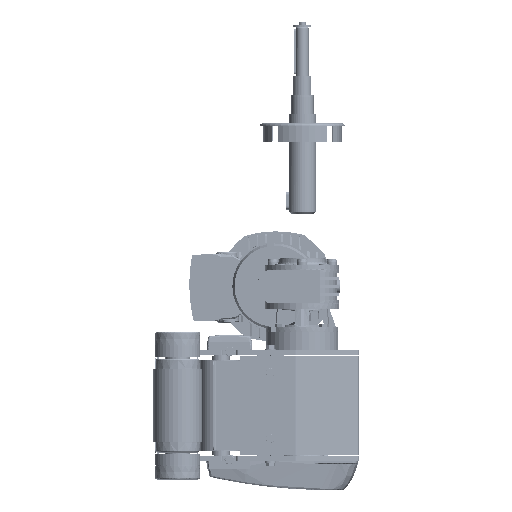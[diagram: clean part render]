
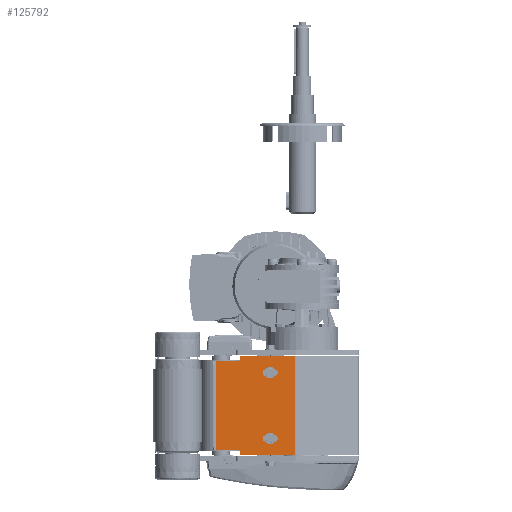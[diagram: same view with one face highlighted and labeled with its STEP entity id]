
A CAD part, left-side view. The second image highlights one B-rep face of the part: STEP entity #125792.
In plain terms, the highlighted planar face has unit normal (-1, 0, 0).
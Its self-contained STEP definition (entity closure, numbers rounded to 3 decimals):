
#920 = CARTESIAN_POINT ( 'NONE',  ( -90., 160., -6.5 ) ) ;
#2067 = FACE_BOUND ( 'NONE', #109471, .T. ) ;
#3760 = ORIENTED_EDGE ( 'NONE', *, *, #62869, .T. ) ;
#9367 = DIRECTION ( 'NONE',  ( 0., 0., -1. ) ) ;
#9980 = DIRECTION ( 'NONE',  ( 0., -1., 0. ) ) ;
#15457 = DIRECTION ( 'NONE',  ( 0., -1., 0. ) ) ;
#16075 = ORIENTED_EDGE ( 'NONE', *, *, #184714, .T. ) ;
#16691 = VERTEX_POINT ( 'NONE', #176641 ) ;
#16764 = VERTEX_POINT ( 'NONE', #186743 ) ;
#18077 = DIRECTION ( 'NONE',  ( 0., 1., 0. ) ) ;
#18501 = VERTEX_POINT ( 'NONE', #71758 ) ;
#19301 = ORIENTED_EDGE ( 'NONE', *, *, #92833, .T. ) ;
#20409 = CARTESIAN_POINT ( 'NONE',  ( -90., 160., -28. ) ) ;
#21669 = LINE ( 'NONE', #215930, #70509 ) ;
#22402 = CARTESIAN_POINT ( 'NONE',  ( -90., 93., -101. ) ) ;
#23119 = CARTESIAN_POINT ( 'NONE',  ( -90., 103., -24.5 ) ) ;
#23174 = EDGE_CURVE ( 'NONE', #45340, #18501, #226067, .T. ) ;
#23413 = AXIS2_PLACEMENT_3D ( 'NONE', #920, #72430, #106345 ) ;
#28260 = CARTESIAN_POINT ( 'NONE',  ( -90., 70.086, -115.5 ) ) ;
#30289 = VECTOR ( 'NONE', #18077, 1000. ) ;
#32007 = VERTEX_POINT ( 'NONE', #165920 ) ;
#34361 = LINE ( 'NONE', #192344, #146339 ) ;
#37370 = LINE ( 'NONE', #145030, #222529 ) ;
#38778 = CARTESIAN_POINT ( 'NONE',  ( -90., 160., -101. ) ) ;
#38808 = DIRECTION ( 'NONE',  ( 1., 0., 0. ) ) ;
#39781 = EDGE_CURVE ( 'NONE', #179240, #89728, #21669, .T. ) ;
#40421 = CARTESIAN_POINT ( 'NONE',  ( -90., 160., -6.5 ) ) ;
#44104 = DIRECTION ( 'NONE',  ( 0., 0., -1. ) ) ;
#45212 = CARTESIAN_POINT ( 'NONE',  ( -90., 131.5, -110.5 ) ) ;
#45340 = VERTEX_POINT ( 'NONE', #131006 ) ;
#45546 = DIRECTION ( 'NONE',  ( 1., 0., 0. ) ) ;
#47523 = CIRCLE ( 'NONE', #55965, 3.5 ) ;
#48591 = CARTESIAN_POINT ( 'NONE',  ( -90., 93., -24.5 ) ) ;
#49740 = DIRECTION ( 'NONE',  ( 1., 0., 0. ) ) ;
#50282 = DIRECTION ( 'NONE',  ( 0., -1., 0. ) ) ;
#50458 = VECTOR ( 'NONE', #15457, 1000. ) ;
#51468 = ORIENTED_EDGE ( 'NONE', *, *, #227158, .T. ) ;
#53542 = EDGE_CURVE ( 'NONE', #96607, #139746, #141470, .T. ) ;
#53718 = EDGE_CURVE ( 'NONE', #180722, #60126, #47523, .T. ) ;
#55965 = AXIS2_PLACEMENT_3D ( 'NONE', #23119, #94520, #44104 ) ;
#56366 = ORIENTED_EDGE ( 'NONE', *, *, #23174, .T. ) ;
#57952 = DIRECTION ( 'NONE',  ( 0., 0., -1. ) ) ;
#60126 = VERTEX_POINT ( 'NONE', #80586 ) ;
#60308 = DIRECTION ( 'NONE',  ( 0., -1., 0. ) ) ;
#62869 = EDGE_CURVE ( 'NONE', #60126, #225977, #193018, .T. ) ;
#67556 = VECTOR ( 'NONE', #60308, 1000. ) ;
#70509 = VECTOR ( 'NONE', #57952, 1000. ) ;
#71575 = LINE ( 'NONE', #142913, #74042 ) ;
#71758 = CARTESIAN_POINT ( 'NONE',  ( -90., 103., -94. ) ) ;
#72430 = DIRECTION ( 'NONE',  ( 1., 0., 0. ) ) ;
#74042 = VECTOR ( 'NONE', #148660, 1000. ) ;
#74261 = EDGE_CURVE ( 'NONE', #225977, #16764, #77391, .T. ) ;
#77391 = CIRCLE ( 'NONE', #215695, 3.5 ) ;
#78059 = EDGE_CURVE ( 'NONE', #200200, #89728, #71575, .T. ) ;
#80296 = CARTESIAN_POINT ( 'NONE',  ( -90., 160., -94. ) ) ;
#80586 = CARTESIAN_POINT ( 'NONE',  ( -90., 103., -21. ) ) ;
#82677 = EDGE_LOOP ( 'NONE', ( #156434, #192096, #16075, #159628, #51468, #139867, #133179, #100632 ) ) ;
#85364 = ORIENTED_EDGE ( 'NONE', *, *, #53542, .T. ) ;
#89447 = CARTESIAN_POINT ( 'NONE',  ( -90., 103., -28. ) ) ;
#89728 = VERTEX_POINT ( 'NONE', #28260 ) ;
#91158 = EDGE_CURVE ( 'NONE', #32007, #187760, #159036, .T. ) ;
#91488 = LINE ( 'NONE', #38778, #212761 ) ;
#92833 = EDGE_CURVE ( 'NONE', #18501, #96607, #95575, .T. ) ;
#93883 = ORIENTED_EDGE ( 'NONE', *, *, #74261, .T. ) ;
#94520 = DIRECTION ( 'NONE',  ( 1., 0., 0. ) ) ;
#95575 = LINE ( 'NONE', #80296, #112636 ) ;
#96607 = VERTEX_POINT ( 'NONE', #152482 ) ;
#100632 = ORIENTED_EDGE ( 'NONE', *, *, #204111, .F. ) ;
#106345 = DIRECTION ( 'NONE',  ( 0., 0., -1. ) ) ;
#109471 = EDGE_LOOP ( 'NONE', ( #19301, #85364, #173222, #56366 ) ) ;
#110025 = CARTESIAN_POINT ( 'NONE',  ( -90., 131.5, -6.5 ) ) ;
#110176 = DIRECTION ( 'NONE',  ( 0., 0., -1. ) ) ;
#110860 = VERTEX_POINT ( 'NONE', #45212 ) ;
#112636 = VECTOR ( 'NONE', #9980, 1000. ) ;
#118822 = DIRECTION ( 'NONE',  ( 0., 0., -1. ) ) ;
#119165 = CARTESIAN_POINT ( 'NONE',  ( -90., 158.5, -11.5 ) ) ;
#123896 = FACE_OUTER_BOUND ( 'NONE', #82677, .T. ) ;
#123990 = CARTESIAN_POINT ( 'NONE',  ( -90., 160., -21. ) ) ;
#124791 = EDGE_CURVE ( 'NONE', #149090, #32007, #34361, .T. ) ;
#125792 = ADVANCED_FACE ( 'NONE', ( #2067, #215145, #123896 ), #161296, .F. ) ;
#128885 = AXIS2_PLACEMENT_3D ( 'NONE', #199117, #38808, #110176 ) ;
#131006 = CARTESIAN_POINT ( 'NONE',  ( -90., 103., -101. ) ) ;
#133179 = ORIENTED_EDGE ( 'NONE', *, *, #39781, .F. ) ;
#138922 = CARTESIAN_POINT ( 'NONE',  ( -90., 131.5, -115.5 ) ) ;
#139746 = VERTEX_POINT ( 'NONE', #22402 ) ;
#139867 = ORIENTED_EDGE ( 'NONE', *, *, #78059, .T. ) ;
#141470 = CIRCLE ( 'NONE', #197804, 3.5 ) ;
#142913 = CARTESIAN_POINT ( 'NONE',  ( -90., 160., -115.5 ) ) ;
#143006 = CARTESIAN_POINT ( 'NONE',  ( -90., 160., -110.5 ) ) ;
#145030 = CARTESIAN_POINT ( 'NONE',  ( -90., 158.5, -6.5 ) ) ;
#146339 = VECTOR ( 'NONE', #227427, 1000. ) ;
#148660 = DIRECTION ( 'NONE',  ( 0., -1., 0. ) ) ;
#149090 = VERTEX_POINT ( 'NONE', #110025 ) ;
#152482 = CARTESIAN_POINT ( 'NONE',  ( -90., 93., -94. ) ) ;
#153166 = CARTESIAN_POINT ( 'NONE',  ( -90., 93., -97.5 ) ) ;
#156434 = ORIENTED_EDGE ( 'NONE', *, *, #124791, .T. ) ;
#159036 = LINE ( 'NONE', #228070, #160898 ) ;
#159628 = ORIENTED_EDGE ( 'NONE', *, *, #184193, .T. ) ;
#159859 = CARTESIAN_POINT ( 'NONE',  ( -90., 70.086, -6.5 ) ) ;
#160243 = DIRECTION ( 'NONE',  ( 0., 0., -1. ) ) ;
#160898 = VECTOR ( 'NONE', #230408, 1000. ) ;
#161296 = PLANE ( 'NONE',  #23413 ) ;
#165920 = CARTESIAN_POINT ( 'NONE',  ( -90., 131.5, -11.5 ) ) ;
#167447 = EDGE_CURVE ( 'NONE', #139746, #45340, #91488, .T. ) ;
#170735 = DIRECTION ( 'NONE',  ( 0., 0., -1. ) ) ;
#172008 = LINE ( 'NONE', #186121, #173580 ) ;
#173222 = ORIENTED_EDGE ( 'NONE', *, *, #167447, .T. ) ;
#173580 = VECTOR ( 'NONE', #9367, 1000. ) ;
#176230 = EDGE_CURVE ( 'NONE', #16764, #180722, #180712, .T. ) ;
#176641 = CARTESIAN_POINT ( 'NONE',  ( -90., 158.5, -110.5 ) ) ;
#179240 = VERTEX_POINT ( 'NONE', #159859 ) ;
#180712 = LINE ( 'NONE', #20409, #30289 ) ;
#180722 = VERTEX_POINT ( 'NONE', #89447 ) ;
#184193 = EDGE_CURVE ( 'NONE', #16691, #110860, #230742, .T. ) ;
#184714 = EDGE_CURVE ( 'NONE', #187760, #16691, #37370, .T. ) ;
#186121 = CARTESIAN_POINT ( 'NONE',  ( -90., 131.5, -6.5 ) ) ;
#186743 = CARTESIAN_POINT ( 'NONE',  ( -90., 93., -28. ) ) ;
#187760 = VERTEX_POINT ( 'NONE', #119165 ) ;
#192096 = ORIENTED_EDGE ( 'NONE', *, *, #91158, .T. ) ;
#192344 = CARTESIAN_POINT ( 'NONE',  ( -90., 131.5, -6.5 ) ) ;
#193018 = LINE ( 'NONE', #123990, #209545 ) ;
#194454 = DIRECTION ( 'NONE',  ( 0., 1., 0. ) ) ;
#197804 = AXIS2_PLACEMENT_3D ( 'NONE', #153166, #45546, #170735 ) ;
#198185 = ORIENTED_EDGE ( 'NONE', *, *, #53718, .T. ) ;
#199117 = CARTESIAN_POINT ( 'NONE',  ( -90., 103., -97.5 ) ) ;
#200200 = VERTEX_POINT ( 'NONE', #138922 ) ;
#204111 = EDGE_CURVE ( 'NONE', #149090, #179240, #220571, .T. ) ;
#207354 = EDGE_LOOP ( 'NONE', ( #3760, #93883, #210511, #198185 ) ) ;
#209545 = VECTOR ( 'NONE', #50282, 1000. ) ;
#210511 = ORIENTED_EDGE ( 'NONE', *, *, #176230, .T. ) ;
#212761 = VECTOR ( 'NONE', #194454, 1000. ) ;
#215145 = FACE_BOUND ( 'NONE', #207354, .T. ) ;
#215695 = AXIS2_PLACEMENT_3D ( 'NONE', #48591, #49740, #118822 ) ;
#215930 = CARTESIAN_POINT ( 'NONE',  ( -90., 70.086, -6.5 ) ) ;
#220571 = LINE ( 'NONE', #40421, #67556 ) ;
#220911 = CARTESIAN_POINT ( 'NONE',  ( -90., 93., -21. ) ) ;
#222529 = VECTOR ( 'NONE', #160243, 1000. ) ;
#225977 = VERTEX_POINT ( 'NONE', #220911 ) ;
#226067 = CIRCLE ( 'NONE', #128885, 3.5 ) ;
#227158 = EDGE_CURVE ( 'NONE', #110860, #200200, #172008, .T. ) ;
#227427 = DIRECTION ( 'NONE',  ( 0., 0., -1. ) ) ;
#228070 = CARTESIAN_POINT ( 'NONE',  ( -90., 160., -11.5 ) ) ;
#230408 = DIRECTION ( 'NONE',  ( 0., 1., 0. ) ) ;
#230742 = LINE ( 'NONE', #143006, #50458 ) ;
